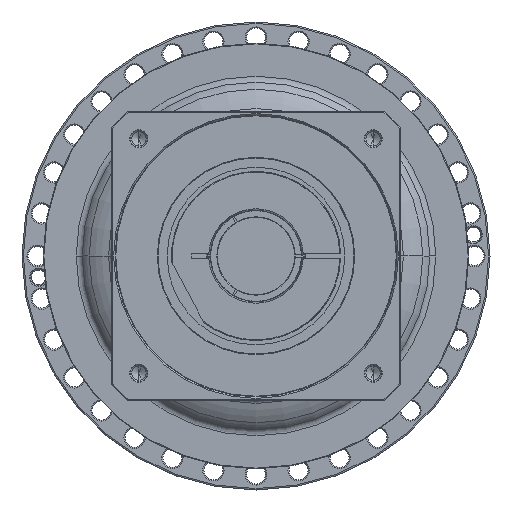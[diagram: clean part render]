
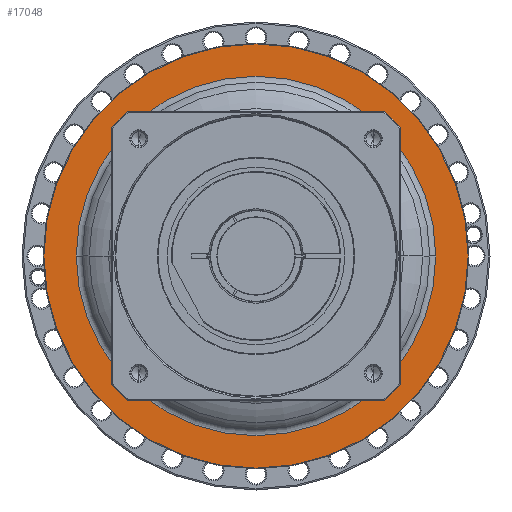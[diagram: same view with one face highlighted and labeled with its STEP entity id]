
A CAD part, left-side view. The second image highlights one B-rep face of the part: STEP entity #17048.
In plain terms, the highlighted planar face has unit normal (-1, 0, 0) as drawn and (1, 0, 0) by its records, which use the part's own axes.
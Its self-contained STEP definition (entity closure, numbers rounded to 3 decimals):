
#16455=CARTESIAN_POINT('',(-19.,0.,0.));
#16456=DIRECTION('',(1.,0.,0.));
#16457=DIRECTION('',(0.,1.,0.));
#16458=AXIS2_PLACEMENT_3D('',#16455,#16456,#16457);
#16460=CARTESIAN_POINT('',(-19.,0.,0.));
#16461=DIRECTION('',(1.,0.,0.));
#16462=DIRECTION('',(0.,-1.,0.));
#16463=AXIS2_PLACEMENT_3D('',#16460,#16461,#16462);
#16465=CARTESIAN_POINT('',(-19.,0.,0.));
#16466=DIRECTION('',(-1.,0.,0.));
#16467=DIRECTION('',(0.,-1.,0.));
#16468=AXIS2_PLACEMENT_3D('',#16465,#16466,#16467);
#16470=CARTESIAN_POINT('',(-19.,0.,0.));
#16471=DIRECTION('',(-1.,0.,0.));
#16472=DIRECTION('',(0.,1.,0.));
#16473=AXIS2_PLACEMENT_3D('',#16470,#16471,#16472);
#16599=CARTESIAN_POINT('',(-19.,-150.5,0.));
#16600=CARTESIAN_POINT('',(-19.,150.5,0.));
#16601=VERTEX_POINT('',#16599);
#16602=VERTEX_POINT('',#16600);
#16667=CARTESIAN_POINT('',(-19.,127.5,0.));
#16668=VERTEX_POINT('',#16667);
#16669=CARTESIAN_POINT('',(-19.,-127.5,0.));
#16670=VERTEX_POINT('',#16669);
#17033=CARTESIAN_POINT('',(-19.,0.,0.));
#17034=DIRECTION('',(1.,0.,0.));
#17035=DIRECTION('',(0.,-1.,0.));
#17036=AXIS2_PLACEMENT_3D('',#17033,#17034,#17035);
#17037=PLANE('',#17036);
#17038=ORIENTED_EDGE('',*,*,#16974,.T.);
#17039=ORIENTED_EDGE('',*,*,#16989,.T.);
#17040=EDGE_LOOP('',(#17038,#17039));
#17041=FACE_OUTER_BOUND('',#17040,.F.);
#17043=ORIENTED_EDGE('',*,*,#17042,.T.);
#17045=ORIENTED_EDGE('',*,*,#17044,.T.);
#17046=EDGE_LOOP('',(#17043,#17045));
#17047=FACE_BOUND('',#17046,.F.);
#17048=ADVANCED_FACE('',(#17041,#17047),#17037,.T.);
#16459=CIRCLE('',#16458,127.5);
#16464=CIRCLE('',#16463,127.5);
#16469=CIRCLE('',#16468,150.5);
#16474=CIRCLE('',#16473,150.5);
#16974=EDGE_CURVE('',#16601,#16602,#16469,.T.);
#16989=EDGE_CURVE('',#16602,#16601,#16474,.T.);
#17042=EDGE_CURVE('',#16668,#16670,#16459,.T.);
#17044=EDGE_CURVE('',#16670,#16668,#16464,.T.);
